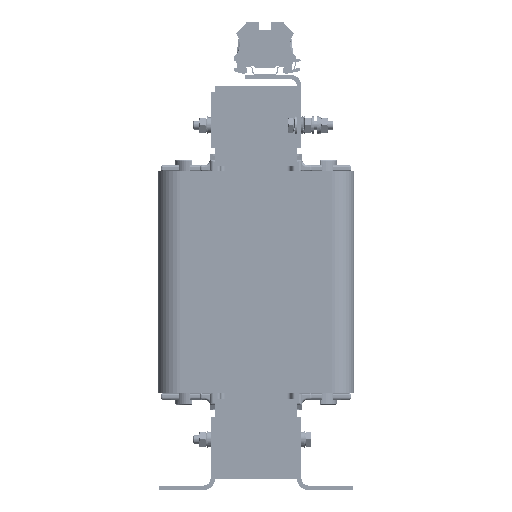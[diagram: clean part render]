
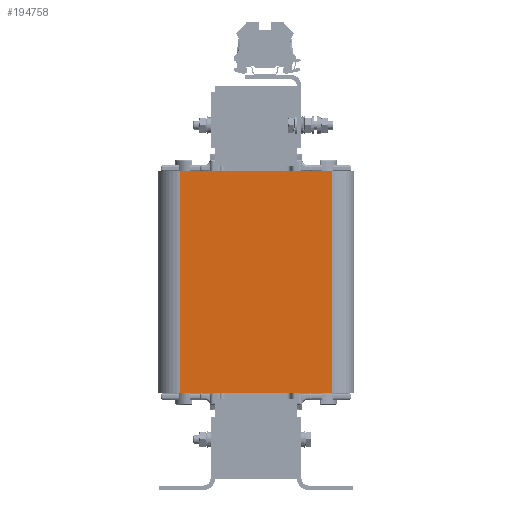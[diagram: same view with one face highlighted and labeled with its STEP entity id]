
A CAD part, left-side view. The second image highlights one B-rep face of the part: STEP entity #194758.
In plain terms, the highlighted planar face has unit normal (-1, 0, 0).
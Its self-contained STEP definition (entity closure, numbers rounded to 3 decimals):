
#188752=CARTESIAN_POINT('',(-221.45,-67.3,-98.975));
#188753=VERTEX_POINT('',#188752);
#188763=CARTESIAN_POINT('',(-221.45,67.3,-98.975));
#188764=VERTEX_POINT('',#188763);
#188765=CARTESIAN_POINT('',(-221.45,67.3,-98.975));
#188766=DIRECTION('',(0.0,-1.0,0.0));
#188767=VECTOR('',#188766,134.6);
#188768=LINE('',#188765,#188767);
#188769=EDGE_CURVE('',#188764,#188753,#188768,.T.);
#194136=CARTESIAN_POINT('',(-221.45,67.3,98.975));
#194137=VERTEX_POINT('',#194136);
#194147=CARTESIAN_POINT('',(-221.45,-67.3,98.975));
#194148=VERTEX_POINT('',#194147);
#194149=CARTESIAN_POINT('',(-221.45,-67.3,98.975));
#194150=DIRECTION('',(0.0,1.0,0.0));
#194151=VECTOR('',#194150,134.6);
#194152=LINE('',#194149,#194151);
#194153=EDGE_CURVE('',#194148,#194137,#194152,.T.);
#194636=CARTESIAN_POINT('',(-221.45,-67.3,-98.975));
#194637=DIRECTION('',(0.0,0.0,1.0));
#194638=VECTOR('',#194637,197.95);
#194639=LINE('',#194636,#194638);
#194640=EDGE_CURVE('',#188753,#194148,#194639,.T.);
#194736=CARTESIAN_POINT('',(-221.45,67.3,98.975));
#194737=DIRECTION('',(0.0,0.0,-1.0));
#194738=VECTOR('',#194737,197.95);
#194739=LINE('',#194736,#194738);
#194740=EDGE_CURVE('',#194137,#188764,#194739,.T.);
#194747=CARTESIAN_POINT('',(-221.45,67.3,0.0));
#194748=DIRECTION('',(-1.0,0.0,0.0));
#194749=DIRECTION('',(0.0,0.0,-1.0));
#194750=AXIS2_PLACEMENT_3D('',#194747,#194748,#194749);
#194751=PLANE('',#194750);
#194752=ORIENTED_EDGE('',*,*,#188769,.T.);
#194753=ORIENTED_EDGE('',*,*,#194640,.T.);
#194754=ORIENTED_EDGE('',*,*,#194153,.T.);
#194755=ORIENTED_EDGE('',*,*,#194740,.T.);
#194756=EDGE_LOOP('',(#194752,#194753,#194754,#194755));
#194757=FACE_OUTER_BOUND('',#194756,.T.);
#194758=ADVANCED_FACE('',(#194757),#194751,.T.);
